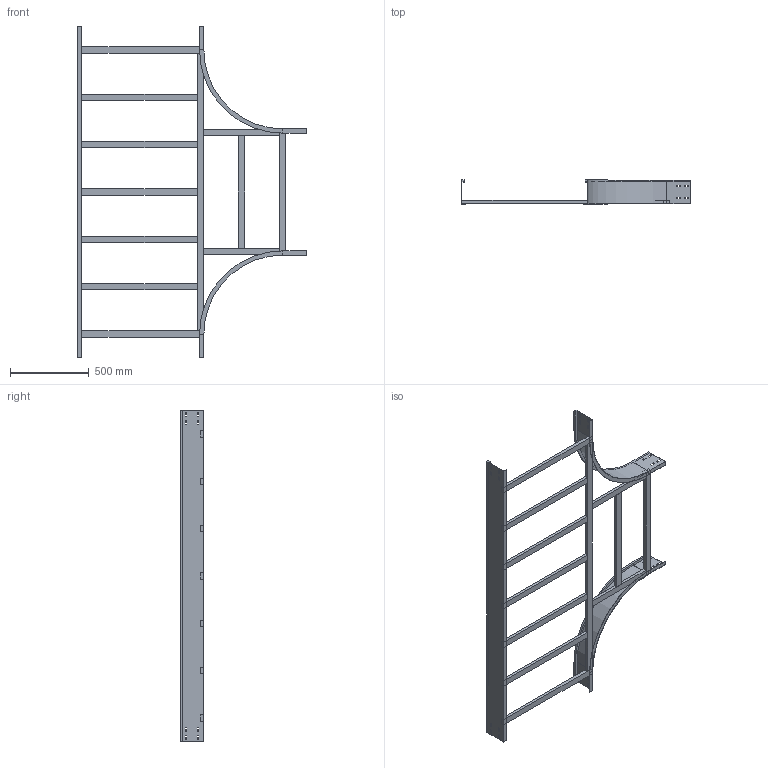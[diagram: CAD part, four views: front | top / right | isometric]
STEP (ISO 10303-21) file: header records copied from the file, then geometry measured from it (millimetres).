
FILE_DESCRIPTION (( 'STEP AP214' ), '1' );
FILE_NAME ('15J5F800.step', '2025-02-21T16:28:25', ( '' ), ( '' ), 'SwSTEP 2.0', 'SolidWorks 2023', '' );
FILE_SCHEMA (( 'AUTOMOTIVE_DESIGN' ));
Length unit declared in the file: millimetre
Products named in the file (8): TRAVERSINO_INTERMEDIO_R500+800; LONGH.INTERNO 90°_H150_R500; TRAVERSINO_LONG._R500+800; TRAVERSINO_VERT_R500; LONGH.RETT_H150_R500+800; 15J5F800; TRAVERSINO_800; TRAVERSINO_COPPIA_800
Assembly tree (15 placements, depth 2):
  15J5F800
    LONGH.INTERNO 90°_H150_R500  x2
    LONGH.RETT_H150_R500+800
    TRAVERSINO_800  x3
    TRAVERSINO_LONG._R500+800
    TRAVERSINO_INTERMEDIO_R500+800  x5
    TRAVERSINO_VERT_R500  x2
    TRAVERSINO_COPPIA_800
Bounding box: 1450 x 150 x 2100 mm (x, y, z)
Volume: 10092058.6 mm3; surface area: 2830705.2 mm2
Topology: 15 solids, 15 shells, 230 faces, 568 edges, 368 vertices
Faces by surface type: plane 222, cylinder 8
Entity records: 4217 total; most frequent: CARTESIAN_POINT 696, ORIENTED_EDGE 664, DIRECTION 636, EDGE_CURVE 332, LINE 324, VECTOR 324, VERTEX_POINT 216, EDGE_LOOP 162
